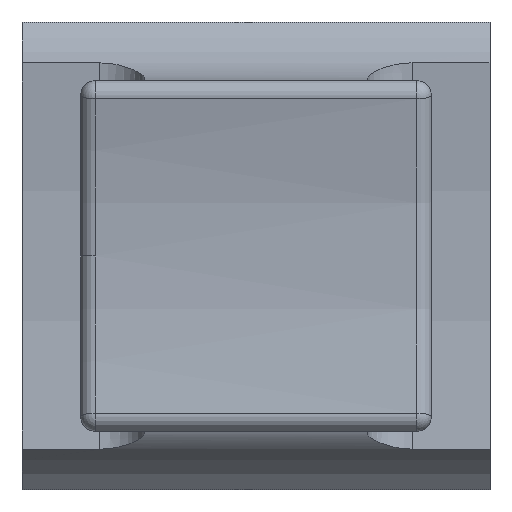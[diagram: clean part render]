
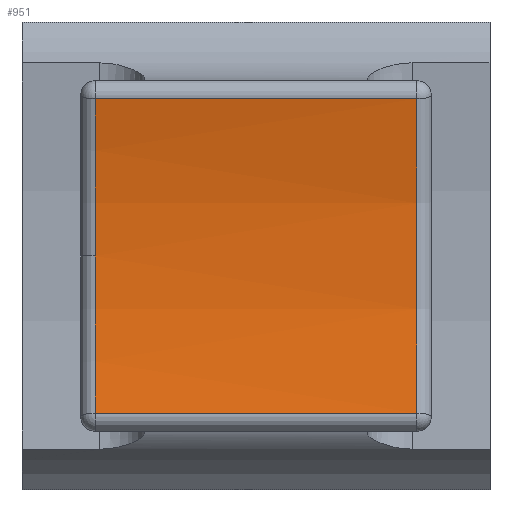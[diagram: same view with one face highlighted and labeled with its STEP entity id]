
A CAD part, front view. The second image highlights one B-rep face of the part: STEP entity #951.
In plain terms, the highlighted cylindrical face has radius 12 mm (diameter 24 mm), a partial arc.
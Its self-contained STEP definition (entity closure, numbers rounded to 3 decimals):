
#28 = DIRECTION ( 'NONE',  ( 0., 1., 0. ) ) ;
#132 = CIRCLE ( 'NONE', #731, 12. ) ;
#150 = FACE_OUTER_BOUND ( 'NONE', #996, .T. ) ;
#164 = VERTEX_POINT ( 'NONE', #852 ) ;
#168 = DIRECTION ( 'NONE',  ( 0., 1., 0. ) ) ;
#198 = DIRECTION ( 'NONE',  ( -1., 0., 0. ) ) ;
#203 = CARTESIAN_POINT ( 'NONE',  ( -4., 11.695, 2.689 ) ) ;
#215 = EDGE_CURVE ( 'NONE', #587, #164, #815, .T. ) ;
#247 = AXIS2_PLACEMENT_3D ( 'NONE', #1028, #928, #1128 ) ;
#261 = AXIS2_PLACEMENT_3D ( 'NONE', #1145, #198, #168 ) ;
#359 = VECTOR ( 'NONE', #1162, 1000. ) ;
#362 = ORIENTED_EDGE ( 'NONE', *, *, #774, .T. ) ;
#364 = CYLINDRICAL_SURFACE ( 'NONE', #247, 12. ) ;
#370 = DIRECTION ( 'NONE',  ( 0., -1., 0. ) ) ;
#371 = EDGE_CURVE ( 'NONE', #164, #512, #493, .T. ) ;
#488 = CARTESIAN_POINT ( 'NONE',  ( -4., 11.695, -2.689 ) ) ;
#493 = LINE ( 'NONE', #488, #359 ) ;
#505 = AXIS2_PLACEMENT_3D ( 'NONE', #612, #993, #28 ) ;
#512 = VERTEX_POINT ( 'NONE', #742 ) ;
#528 = CIRCLE ( 'NONE', #505, 12. ) ;
#587 = VERTEX_POINT ( 'NONE', #657 ) ;
#612 = CARTESIAN_POINT ( 'NONE',  ( -2.746, 0., 0. ) ) ;
#624 = ORIENTED_EDGE ( 'NONE', *, *, #661, .T. ) ;
#657 = CARTESIAN_POINT ( 'NONE',  ( -2.746, 12., 0. ) ) ;
#661 = EDGE_CURVE ( 'NONE', #1190, #1045, #1148, .T. ) ;
#684 = DIRECTION ( 'NONE',  ( -1., 0., 0. ) ) ;
#697 = EDGE_CURVE ( 'NONE', #512, #1190, #132, .T. ) ;
#731 = AXIS2_PLACEMENT_3D ( 'NONE', #1054, #948, #370 ) ;
#742 = CARTESIAN_POINT ( 'NONE',  ( 2.746, 11.695, -2.689 ) ) ;
#774 = EDGE_CURVE ( 'NONE', #1045, #587, #528, .T. ) ;
#815 = CIRCLE ( 'NONE', #261, 12. ) ;
#851 = VECTOR ( 'NONE', #684, 1000. ) ;
#852 = CARTESIAN_POINT ( 'NONE',  ( -2.746, 11.695, -2.689 ) ) ;
#928 = DIRECTION ( 'NONE',  ( 1., 0., 0. ) ) ;
#935 = ORIENTED_EDGE ( 'NONE', *, *, #697, .T. ) ;
#948 = DIRECTION ( 'NONE',  ( 1., 0., 0. ) ) ;
#951 = ADVANCED_FACE ( 'NONE', ( #150 ), #364, .F. ) ;
#965 = ORIENTED_EDGE ( 'NONE', *, *, #371, .T. ) ;
#993 = DIRECTION ( 'NONE',  ( -1., 0., 0. ) ) ;
#996 = EDGE_LOOP ( 'NONE', ( #362, #1125, #965, #935, #624 ) ) ;
#1028 = CARTESIAN_POINT ( 'NONE',  ( -4., 0., 0. ) ) ;
#1045 = VERTEX_POINT ( 'NONE', #1142 ) ;
#1054 = CARTESIAN_POINT ( 'NONE',  ( 2.746, 0., 0. ) ) ;
#1089 = CARTESIAN_POINT ( 'NONE',  ( 2.746, 11.695, 2.689 ) ) ;
#1125 = ORIENTED_EDGE ( 'NONE', *, *, #215, .T. ) ;
#1128 = DIRECTION ( 'NONE',  ( 0., 0., -1. ) ) ;
#1142 = CARTESIAN_POINT ( 'NONE',  ( -2.746, 11.695, 2.689 ) ) ;
#1145 = CARTESIAN_POINT ( 'NONE',  ( -2.746, 0., 0. ) ) ;
#1148 = LINE ( 'NONE', #203, #851 ) ;
#1162 = DIRECTION ( 'NONE',  ( 1., 0., 0. ) ) ;
#1190 = VERTEX_POINT ( 'NONE', #1089 ) ;
